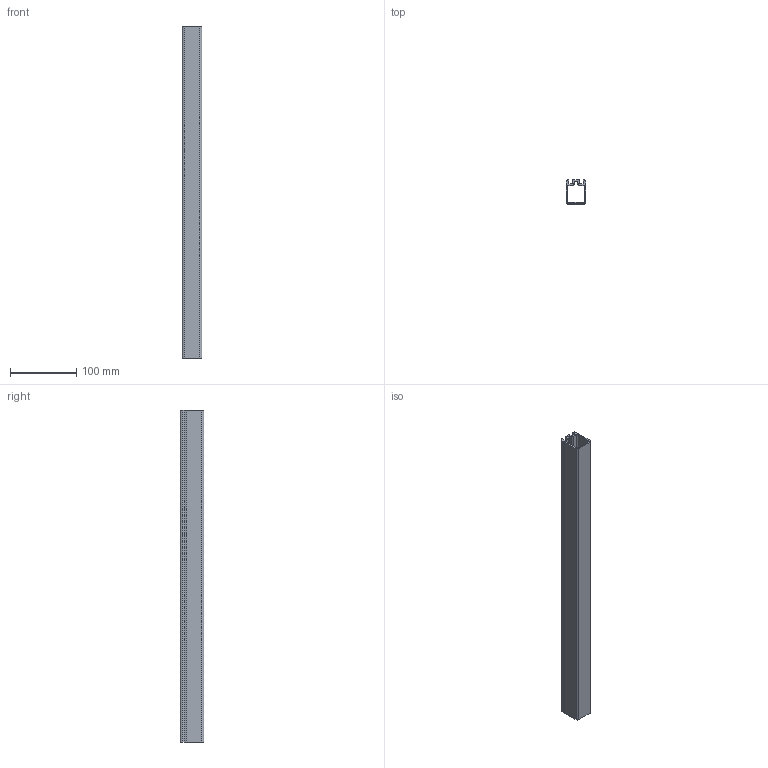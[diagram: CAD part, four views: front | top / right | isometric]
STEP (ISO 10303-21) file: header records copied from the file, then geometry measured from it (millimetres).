
FILE_DESCRIPTION (( 'STEP AP214' ), '1' );
FILE_NAME ('A40704.step', '2024-12-03T16:11:29', ( '' ), ( '' ), 'SwSTEP 2.0', 'SolidWorks 2023', '' );
FILE_SCHEMA (( 'AUTOMOTIVE_DESIGN' ));
Length unit declared in the file: millimetre
Products named in the file (1): A40704
Bounding box: 30 x 36 x 500 mm (x, y, z)
Volume: 144739.5 mm3; surface area: 131520.5 mm2
Topology: 1 solids, 1 shells, 40 faces, 114 edges, 76 vertices
Faces by surface type: plane 26, cylinder 14
Entity records: 1333 total; most frequent: CARTESIAN_POINT 231, ORIENTED_EDGE 228, DIRECTION 224, EDGE_CURVE 114, LINE 86, VECTOR 86, VERTEX_POINT 76, AXIS2_PLACEMENT_3D 69
